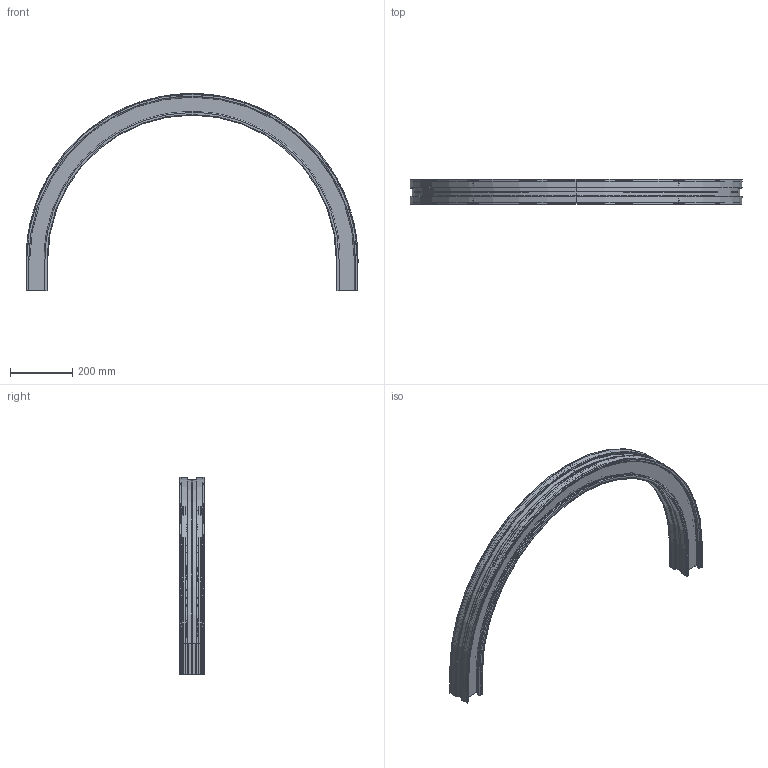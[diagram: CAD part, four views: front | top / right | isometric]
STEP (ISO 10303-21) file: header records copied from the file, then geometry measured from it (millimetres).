
FILE_DESCRIPTION (( 'STEP AP203' ), '1' );
FILE_NAME ('R1C500-180.STEP', '2008-11-24T14:40:40', ( 'faber' ), ( '' ), 'SwSTEP 2.0', 'SolidWorks 2008', '' );
FILE_SCHEMA (( 'CONFIG_CONTROL_DESIGN' ));
Length unit declared in the file: millimetre
Products named in the file (1): R1C500-180
Bounding box: 1070 x 79.8 x 635 mm (x, y, z)
Surface area: 1119225.2 mm2 (no closed solid volume)
Topology: 0 solids, 5 shells, 257 faces, 767 edges, 506 vertices
Faces by surface type: plane 110, cylinder 96, bspline 40, cone 11
Entity records: 12614 total; most frequent: CARTESIAN_POINT 5779, DIRECTION 1419, ORIENTED_EDGE 1354, EDGE_CURVE 767, VERTEX_POINT 506, VECTOR 487, LINE 487, AXIS2_PLACEMENT_3D 466
